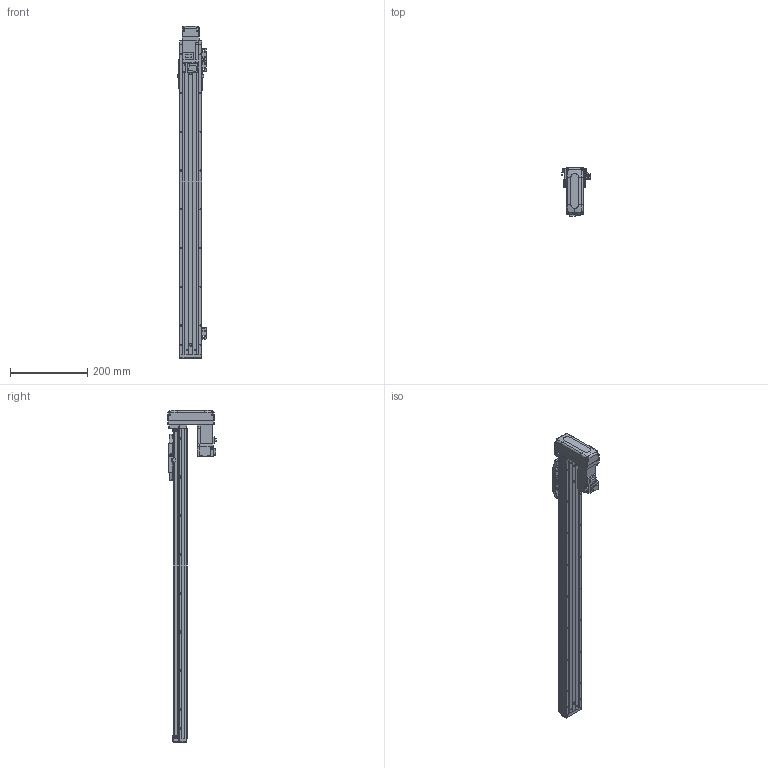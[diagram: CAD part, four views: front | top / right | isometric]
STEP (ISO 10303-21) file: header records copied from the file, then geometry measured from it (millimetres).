
FILE_DESCRIPTION (( 'STEP AP203' ), '1' );
FILE_NAME ('CTHA50-650-BM-M10-C4L.step', '2022-03-19T06:04:27', ( '微软用户' ), ( '微软中国' ), 'SwSTEP 2.0', 'SolidWorks 2020', '' );
FILE_SCHEMA (( 'CONFIG_CONTROL_DESIGN' ));
Length unit declared in the file: millimetre
Products named in the file (20): KTHA50-001_800; CTHA60-017; CTHA60-033; KTHA50-004; GBT 70.1-M4×12; GBT 70.1-M3×15; KTHA50-005; CTHA60-016; CTHA50-650-BM-M10-C4L; GB¨uT 70.2-M3¡Á6_M3¡Á6; CTHA50-030; CTHA60-021; EE_SX911P_R; CTHA50-031; HG-KR13（三菱）; GBT77-2000 M3×3; GBT 70.3-M3℅6; CTHA50-002; GBT 70.1-M3℅6; CTHA50-015-2_CTHA60-015-2
Assembly tree (60 placements, depth 2):
  CTHA50-650-BM-M10-C4L
    KTHA50-001_800
    KTHA50-004
    KTHA50-005
    GB¨uT 70.2-M3¡Á6_M3¡Á6  x10
    EE_SX911P_R  x3
    GBT77-2000 M3×3  x6
    GBT 70.1-M3℅6  x6
    CTHA60-017  x3
    GBT 70.1-M4×12  x10
    CTHA60-016  x2
    CTHA60-021  x2
    HG-KR13（三菱）
    CTHA50-002
    CTHA50-030  x2
    CTHA50-031
    GBT 70.3-M3℅6  x4
    CTHA50-015-2_CTHA60-015-2
    CTHA60-033
    GBT 70.1-M3×15  x4
Bounding box: 74.12 x 125.3 x 857 mm (x, y, z)
Volume: 1601211.5 mm3; surface area: 407791.3 mm2
Topology: 62 solids, 62 shells, 2573 faces, 6135 edges, 3762 vertices
Faces by surface type: plane 1458, cylinder 600, cone 357, torus 108, bspline 26, sphere 24
Entity records: 44623 total; most frequent: CARTESIAN_POINT 8219, DIRECTION 6975, ORIENTED_EDGE 6778, EDGE_CURVE 3389, VECTOR 2379, LINE 2379, AXIS2_PLACEMENT_3D 2298, VERTEX_POINT 2136
